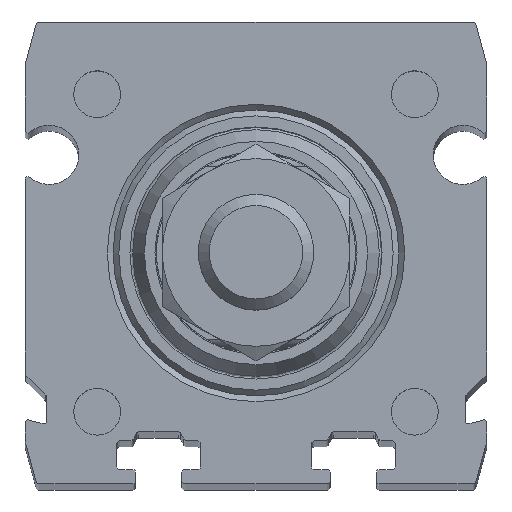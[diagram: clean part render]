
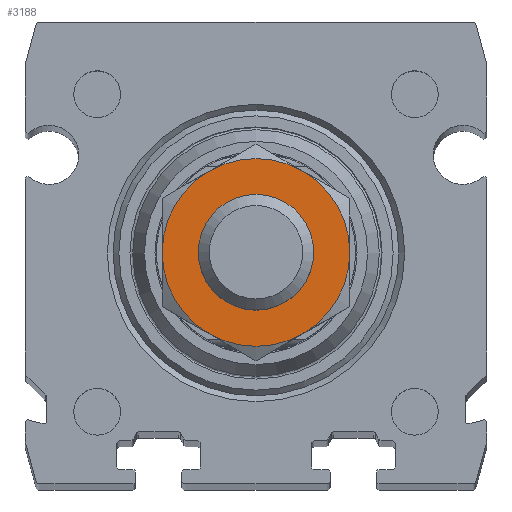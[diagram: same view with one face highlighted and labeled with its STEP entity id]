
A CAD part, top view. The second image highlights one B-rep face of the part: STEP entity #3188.
In plain terms, the highlighted planar face has unit normal (0, 0, 1) as drawn and (1, 0, 0) by its records, which use the part's own axes.
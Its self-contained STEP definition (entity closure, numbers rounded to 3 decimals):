
#583=PLANE('',#3445);
#675=CIRCLE('',#3430,6.5);
#676=CIRCLE('',#3432,6.5);
#677=CIRCLE('',#3434,6.5);
#678=CIRCLE('',#3436,6.5);
#679=CIRCLE('',#3438,6.5);
#682=CIRCLE('',#3444,6.5);
#683=CIRCLE('',#3446,4.);
#923=ORIENTED_EDGE('',*,*,#1841,.F.);
#924=ORIENTED_EDGE('',*,*,#1821,.T.);
#925=ORIENTED_EDGE('',*,*,#1822,.T.);
#926=ORIENTED_EDGE('',*,*,#1825,.T.);
#927=ORIENTED_EDGE('',*,*,#1831,.T.);
#928=ORIENTED_EDGE('',*,*,#1840,.T.);
#929=ORIENTED_EDGE('',*,*,#1830,.T.);
#1821=EDGE_CURVE('',#2277,#2279,#675,.T.);
#1822=EDGE_CURVE('',#2279,#2280,#676,.T.);
#1825=EDGE_CURVE('',#2280,#2282,#677,.T.);
#1830=EDGE_CURVE('',#2284,#2277,#678,.T.);
#1831=EDGE_CURVE('',#2282,#2286,#679,.T.);
#1840=EDGE_CURVE('',#2286,#2284,#682,.T.);
#1841=EDGE_CURVE('',#2291,#2291,#683,.T.);
#2277=VERTEX_POINT('',#4968);
#2279=VERTEX_POINT('',#4974);
#2280=VERTEX_POINT('',#4978);
#2282=VERTEX_POINT('',#4990);
#2284=VERTEX_POINT('',#5005);
#2286=VERTEX_POINT('',#5014);
#2291=VERTEX_POINT('',#5051);
#2630=EDGE_LOOP('',(#923));
#2631=EDGE_LOOP('',(#924,#925,#926,#927,#928,#929));
#2898=FACE_BOUND('',#2630,.T.);
#2899=FACE_BOUND('',#2631,.T.);
#3188=ADVANCED_FACE('',(#2898,#2899),#583,.F.);
#3430=AXIS2_PLACEMENT_3D('',#4975,#3861,#3862);
#3432=AXIS2_PLACEMENT_3D('',#4977,#3865,#3866);
#3434=AXIS2_PLACEMENT_3D('',#4989,#3869,#3870);
#3436=AXIS2_PLACEMENT_3D('',#5011,#3873,#3874);
#3438=AXIS2_PLACEMENT_3D('',#5013,#3877,#3878);
#3444=AXIS2_PLACEMENT_3D('',#5048,#3889,#3890);
#3445=AXIS2_PLACEMENT_3D('',#5049,#3891,#3892);
#3446=AXIS2_PLACEMENT_3D('',#5050,#3893,#3894);
#3861=DIRECTION('',(1.,0.,0.));
#3862=DIRECTION('',(0.,0.,-1.));
#3865=DIRECTION('',(1.,0.,0.));
#3866=DIRECTION('',(0.,0.,-1.));
#3869=DIRECTION('',(1.,0.,0.));
#3870=DIRECTION('',(0.,0.,-1.));
#3873=DIRECTION('',(1.,0.,0.));
#3874=DIRECTION('',(0.,0.,-1.));
#3877=DIRECTION('',(1.,0.,0.));
#3878=DIRECTION('',(0.,0.,-1.));
#3889=DIRECTION('',(1.,0.,0.));
#3890=DIRECTION('',(0.,0.,-1.));
#3891=DIRECTION('',(-1.,0.,0.));
#3892=DIRECTION('',(0.,0.,1.));
#3893=DIRECTION('',(1.,0.,0.));
#3894=DIRECTION('',(0.,0.,-1.));
#4968=CARTESIAN_POINT('',(2.,0.,-6.5));
#4974=CARTESIAN_POINT('',(2.,5.629,-3.25));
#4975=CARTESIAN_POINT('',(2.,0.,0.));
#4977=CARTESIAN_POINT('',(2.,0.,0.));
#4978=CARTESIAN_POINT('',(2.,5.629,3.25));
#4989=CARTESIAN_POINT('',(2.,0.,0.));
#4990=CARTESIAN_POINT('',(2.,0.,6.5));
#5005=CARTESIAN_POINT('',(2.,-5.629,-3.25));
#5011=CARTESIAN_POINT('',(2.,0.,0.));
#5013=CARTESIAN_POINT('',(2.,0.,0.));
#5014=CARTESIAN_POINT('',(2.,-5.629,3.25));
#5048=CARTESIAN_POINT('',(2.,0.,0.));
#5049=CARTESIAN_POINT('',(2.,6.5,0.));
#5050=CARTESIAN_POINT('',(2.,0.,0.));
#5051=CARTESIAN_POINT('',(2.,0.,-4.));
